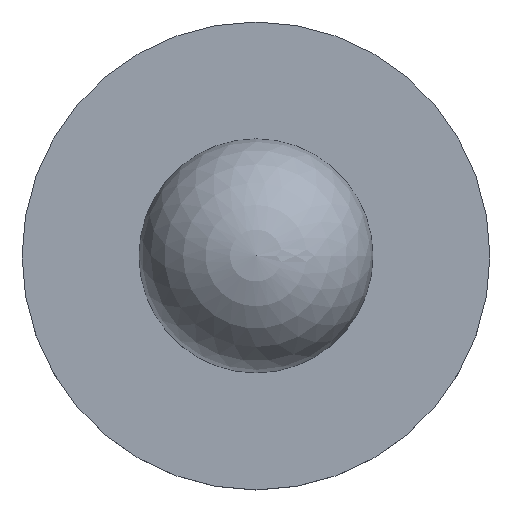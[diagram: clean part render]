
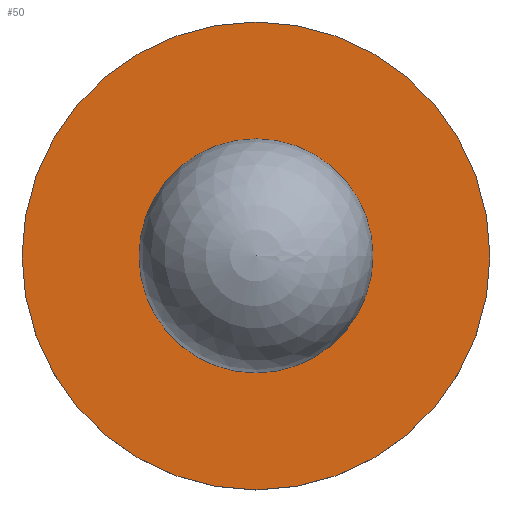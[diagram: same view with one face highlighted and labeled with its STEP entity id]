
A CAD part, top view. The second image highlights one B-rep face of the part: STEP entity #50.
In plain terms, the highlighted planar face has unit normal (0, 0, 1).
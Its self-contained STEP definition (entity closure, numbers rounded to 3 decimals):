
#21 = EDGE_CURVE('',#22,#22,#24,.T.);
#22 = VERTEX_POINT('',#23);
#23 = CARTESIAN_POINT('',(-25.,-47.,-7.4));
#24 = CIRCLE('',#25,3.);
#25 = AXIS2_PLACEMENT_3D('',#26,#27,#28);
#26 = CARTESIAN_POINT('',(-28.,-47.,-7.4));
#27 = DIRECTION('',(0.,0.,1.));
#28 = DIRECTION('',(1.,0.,0.));
#50 = ADVANCED_FACE('',(#51,#54),#65,.T.);
#51 = FACE_BOUND('',#52,.T.);
#52 = EDGE_LOOP('',(#53));
#53 = ORIENTED_EDGE('',*,*,#21,.T.);
#54 = FACE_BOUND('',#55,.T.);
#55 = EDGE_LOOP('',(#56));
#56 = ORIENTED_EDGE('',*,*,#57,.F.);
#57 = EDGE_CURVE('',#58,#58,#60,.T.);
#58 = VERTEX_POINT('',#59);
#59 = CARTESIAN_POINT('',(-26.5,-47.,-7.4));
#60 = CIRCLE('',#61,1.5);
#61 = AXIS2_PLACEMENT_3D('',#62,#63,#64);
#62 = CARTESIAN_POINT('',(-28.,-47.,-7.4));
#63 = DIRECTION('',(0.,0.,1.));
#64 = DIRECTION('',(1.,0.,0.));
#65 = PLANE('',#66);
#66 = AXIS2_PLACEMENT_3D('',#67,#68,#69);
#67 = CARTESIAN_POINT('',(-28.,-47.,-7.4));
#68 = DIRECTION('',(0.,0.,1.));
#69 = DIRECTION('',(1.,0.,0.));
